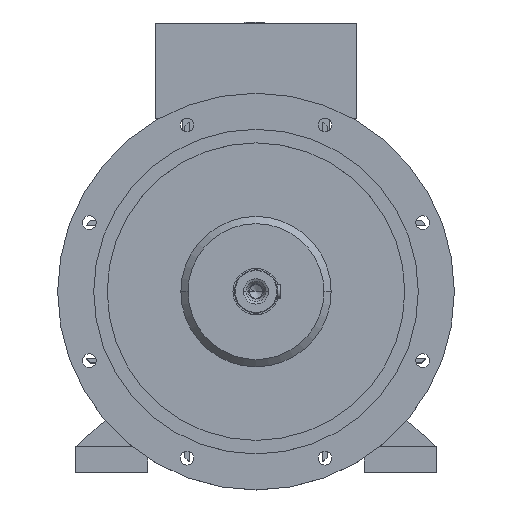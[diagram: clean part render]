
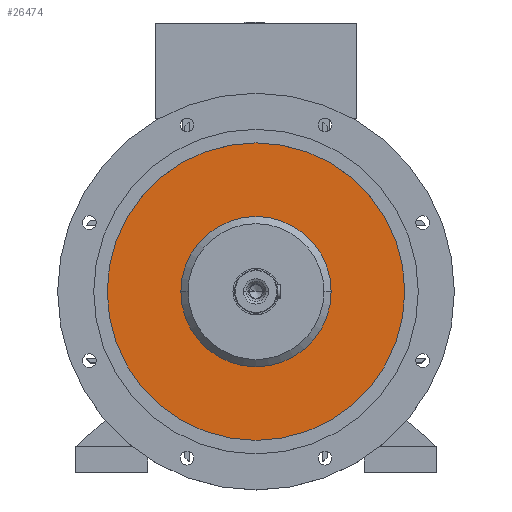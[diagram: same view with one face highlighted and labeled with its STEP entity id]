
A CAD part, top view. The second image highlights one B-rep face of the part: STEP entity #26474.
In plain terms, the highlighted planar face has unit normal (0, 0, 1).
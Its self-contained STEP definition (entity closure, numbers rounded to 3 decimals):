
#320 = EDGE_LOOP ( 'NONE', ( #24404, #18145 ) ) ;
#1136 = AXIS2_PLACEMENT_3D ( 'NONE', #16260, #18348, #14160 ) ;
#1601 = DIRECTION ( 'NONE',  ( 0., 0., 1. ) ) ;
#1788 = PLANE ( 'NONE',  #22571 ) ;
#1865 = CARTESIAN_POINT ( 'NONE',  ( 0., 206.25, 330.5 ) ) ;
#2982 = ORIENTED_EDGE ( 'NONE', *, *, #11372, .T. ) ;
#2994 = CARTESIAN_POINT ( 'NONE',  ( 0., 0., 330.5 ) ) ;
#3098 = CARTESIAN_POINT ( 'NONE',  ( -206.25, 0., 330.5 ) ) ;
#3252 = EDGE_LOOP ( 'NONE', ( #21779, #2982 ) ) ;
#3735 = CARTESIAN_POINT ( 'NONE',  ( -104.2, 0., 330.5 ) ) ;
#4286 = AXIS2_PLACEMENT_3D ( 'NONE', #2994, #20053, #13762 ) ;
#5036 = VERTEX_POINT ( 'NONE', #3735 ) ;
#5291 = FACE_OUTER_BOUND ( 'NONE', #320, .T. ) ;
#5648 = DIRECTION ( 'NONE',  ( 0., 0., -1. ) ) ;
#5755 = DIRECTION ( 'NONE',  ( 1., 0., 0. ) ) ;
#5957 = EDGE_CURVE ( 'NONE', #26263, #13996, #26783, .T. ) ;
#6973 = CIRCLE ( 'NONE', #1136, 206.25 ) ;
#8442 = CARTESIAN_POINT ( 'NONE',  ( 206.25, 0., 330.5 ) ) ;
#8869 = EDGE_CURVE ( 'NONE', #13996, #26263, #6973, .T. ) ;
#10144 = AXIS2_PLACEMENT_3D ( 'NONE', #18287, #5648, #18007 ) ;
#10406 = CARTESIAN_POINT ( 'NONE',  ( 0., 0., 330.5 ) ) ;
#11372 = EDGE_CURVE ( 'NONE', #14959, #5036, #24555, .T. ) ;
#13762 = DIRECTION ( 'NONE',  ( -1., 0., 0. ) ) ;
#13996 = VERTEX_POINT ( 'NONE', #8442 ) ;
#14160 = DIRECTION ( 'NONE',  ( -1., 0., 0. ) ) ;
#14326 = EDGE_CURVE ( 'NONE', #5036, #14959, #16670, .T. ) ;
#14959 = VERTEX_POINT ( 'NONE', #15551 ) ;
#15551 = CARTESIAN_POINT ( 'NONE',  ( 104.2, 0., 330.5 ) ) ;
#16260 = CARTESIAN_POINT ( 'NONE',  ( 0., 0., 330.5 ) ) ;
#16670 = CIRCLE ( 'NONE', #4286, 104.2 ) ;
#18007 = DIRECTION ( 'NONE',  ( -1., 0., 0. ) ) ;
#18145 = ORIENTED_EDGE ( 'NONE', *, *, #8869, .T. ) ;
#18287 = CARTESIAN_POINT ( 'NONE',  ( 0., 0., 330.5 ) ) ;
#18348 = DIRECTION ( 'NONE',  ( 0., 0., 1. ) ) ;
#20053 = DIRECTION ( 'NONE',  ( 0., 0., -1. ) ) ;
#21779 = ORIENTED_EDGE ( 'NONE', *, *, #14326, .T. ) ;
#22571 = AXIS2_PLACEMENT_3D ( 'NONE', #1865, #1601, #5755 ) ;
#22848 = DIRECTION ( 'NONE',  ( -1., 0., 0. ) ) ;
#24404 = ORIENTED_EDGE ( 'NONE', *, *, #5957, .T. ) ;
#24555 = CIRCLE ( 'NONE', #10144, 104.2 ) ;
#25826 = AXIS2_PLACEMENT_3D ( 'NONE', #10406, #27076, #22848 ) ;
#26263 = VERTEX_POINT ( 'NONE', #3098 ) ;
#26474 = ADVANCED_FACE ( 'NONE', ( #5291, #26935 ), #1788, .T. ) ;
#26783 = CIRCLE ( 'NONE', #25826, 206.25 ) ;
#26935 = FACE_BOUND ( 'NONE', #3252, .T. ) ;
#27076 = DIRECTION ( 'NONE',  ( 0., 0., 1. ) ) ;
